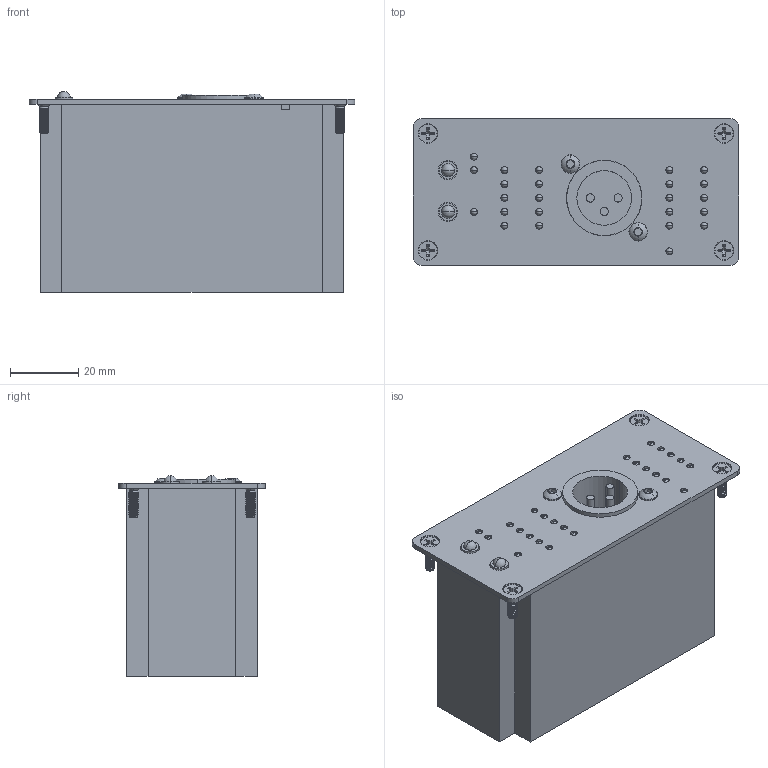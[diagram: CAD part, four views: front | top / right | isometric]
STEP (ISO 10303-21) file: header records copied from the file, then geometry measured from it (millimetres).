
FILE_DESCRIPTION (( 'STEP AP214' ), '1' );
FILE_NAME ('Model5132S.STEP', '2012-07-03T16:20:05', ( 'Mike' ), ( 'Windows User' ), 'SwSTEP 2.0', 'SolidWorks 2012', '' );
FILE_SCHEMA (( 'AUTOMOTIVE_DESIGN' ));
Length unit declared in the file: inch
Products named in the file (10): 5130Filler; 4-40_FHMS_91771A108; 4-40_BHCS_4-40 BHCS X .250; 01311 (aprox); 03144; 03146; 03145; 12086; 5132Panel; Model5132S
Assembly tree (35 placements, depth 2):
  Model5132S
    5132Panel
    12086  x2
    03145
    03146  x5
    03144  x18
    01311 (aprox)
    4-40_BHCS_4-40 BHCS X .250  x2
    4-40_FHMS_91771A108  x4
    5130Filler
Bounding box: 95.25 x 42.85 x 58.7 mm (x, y, z)
Volume: 76499.3 mm3; surface area: 47096.9 mm2
Topology: 35 solids, 35 shells, 1067 faces, 2732 edges, 1722 vertices
Faces by surface type: cylinder 430, plane 303, cone 270, sphere 56, torus 4, bspline 4
Entity records: 18435 total; most frequent: CARTESIAN_POINT 7176, ORIENTED_EDGE 2058, DIRECTION 2034, EDGE_CURVE 1029, AXIS2_PLACEMENT_3D 785, VERTEX_POINT 663, EDGE_LOOP 490, VECTOR 464
